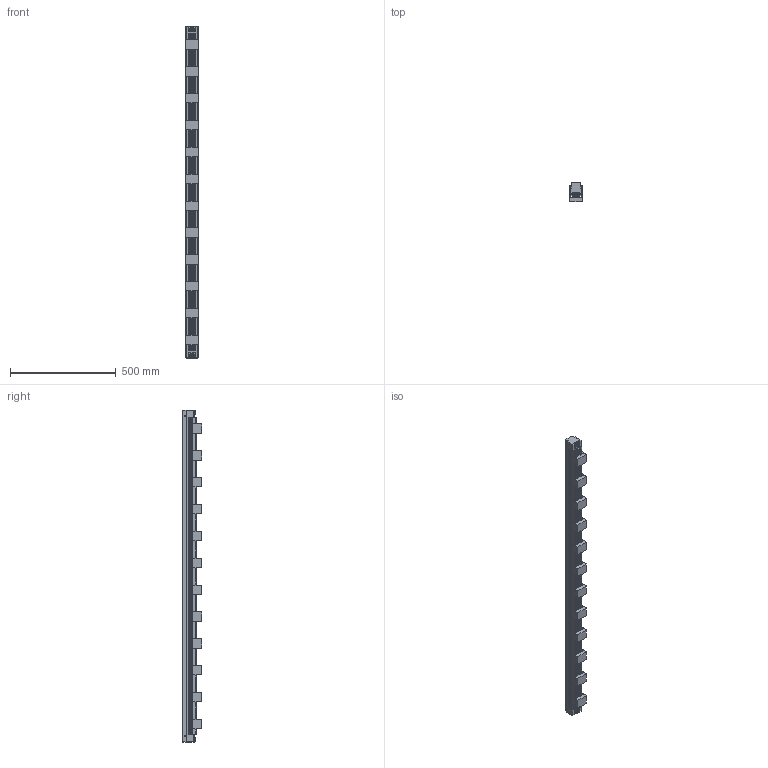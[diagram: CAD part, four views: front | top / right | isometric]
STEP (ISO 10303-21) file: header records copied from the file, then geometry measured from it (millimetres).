
FILE_DESCRIPTION((''),'2;1');
FILE_NAME('P-LSG-1500','2020-09-28T',('win7'),(''),'PRO/ENGINEER BY PARAMETRIC TECHNOLOGY CORPORATION, 2010100','PRO/ENGINEER BY PARAMETRIC TECHNOLOGY CORPORATION, 2010100','');
FILE_SCHEMA(('CONFIG_CONTROL_DESIGN'));
Length unit declared in the file: millimetre
Products named in the file (1): P-LSG-1500
Bounding box: 58 x 90.1 x 1570 mm (x, y, z)
Volume: 5224212.3 mm3; surface area: 786320.3 mm2
Topology: 1 solids, 10 shells, 493 faces, 1318 edges, 817 vertices
Faces by surface type: plane 362, cylinder 101, cone 30
Entity records: 14960 total; most frequent: CARTESIAN_POINT 2610, ORIENTED_EDGE 2544, DIRECTION 2510, EDGE_CURVE 1292, VECTOR 1060, LINE 1060, VERTEX_POINT 817, AXIS2_PLACEMENT_3D 725
